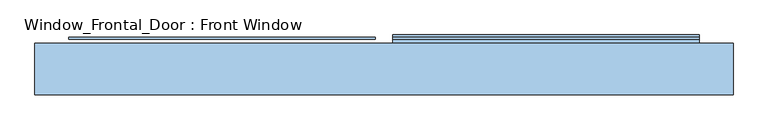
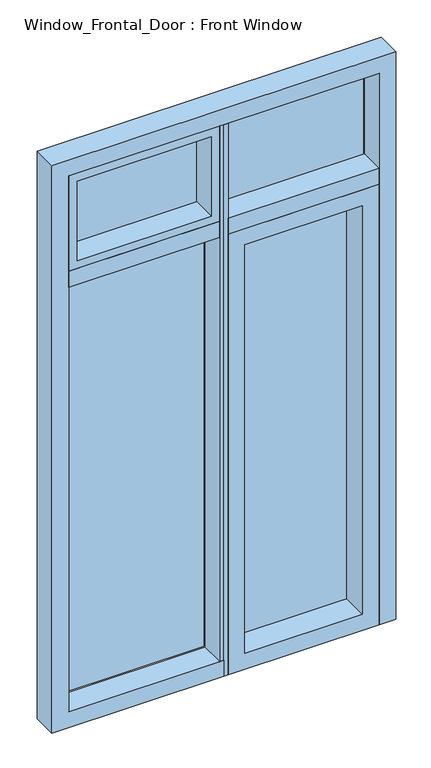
"""IFC4 building model written with IfcOpenShell, lengths in millimetres: window geometry, Window_Frontal_Door : Front Window."""

import ifcopenshell
import ifcopenshell.guid

model = None  # the IFC model being written
_history = None  # IfcOwnerHistory: only IFC2X3 demands one
_inside = {}  # id of a spatial element -> (the spatial element, [elements in it])
_under = {}  # id of a project, library or spatial element -> (it, [spatial elements below it])
_declared = {}  # id of a project -> (the project, [libraries it declares])
_typed = {}  # id of a type object -> (the type object, [elements of that type])
_made_of = {}  # id of a material, layer set ... -> (it, [elements and type objects made of it])


def new_model(schema):
    """Start an empty IFC model of exactly this schema.

    Asked for "IFC4X3", IfcOpenShell would pick the latest addendum, in which some entities
    have other attributes; the version numbers below select the first issue.
    IFC2X3 requires an IfcOwnerHistory on every rooted entity: one is made here for all.
    """
    global model, _history
    if schema == "IFC4X3":
        model = ifcopenshell.file(schema_version=(4, 3, 0, 0))
    else:
        model = ifcopenshell.file(schema=schema)
    _inside.clear()
    _under.clear()
    _declared.clear()
    _typed.clear()
    _made_of.clear()
    _history = None
    if model.schema == "IFC2X3":
        org = make("IfcOrganization", Name="unknown")
        user = make(
            "IfcPersonAndOrganization",
            ThePerson=make("IfcPerson", FamilyName="unknown"),
            TheOrganization=org,
        )
        app = make(
            "IfcApplication",
            ApplicationDeveloper=org,
            Version="unknown",
            ApplicationFullName="unknown",
            ApplicationIdentifier="unknown",
        )
        _history = make(
            "IfcOwnerHistory",
            OwningUser=user,
            OwningApplication=app,
            ChangeAction="ADDED",
            CreationDate=0,
        )
    return model


def make(cls, **values):
    """One entity of the class cls with the attributes given. An attribute that is None is left unset."""
    return model.create_entity(
        cls, **{name: value for name, value in values.items() if value is not None}
    )


def rooted(cls, **values):
    """An entity with a GlobalId (a new one), such as an element, a storey or a relation."""
    return make(cls, GlobalId=ifcopenshell.guid.new(), OwnerHistory=_history, **values)


def si_unit(unit_type, name, prefix=None):
    """IfcSIUnit, for example si_unit("LENGTHUNIT", "METRE", prefix="MILLI")."""
    return make("IfcSIUnit", UnitType=unit_type, Prefix=prefix, Name=name)


def assignment(units):
    """IfcUnitAssignment: the units of a project."""
    return None if units is None else make("IfcUnitAssignment", Units=units)


def point(xyz):
    """IfcCartesianPoint."""
    return None if xyz is None else make("IfcCartesianPoint", Coordinates=xyz)


def direction(xyz):
    """IfcDirection."""
    return None if xyz is None else make("IfcDirection", DirectionRatios=xyz)


def frame(location, z_axis=None, x_axis=None):
    """IfcAxis2Placement3D, a coordinate frame: its origin and axes. An axis left out is left unset."""
    return make(
        "IfcAxis2Placement3D",
        Location=point(location),
        Axis=direction(z_axis),
        RefDirection=direction(x_axis),
    )


def origin():
    """The frame at (0, 0, 0) with its axes left unset."""
    return frame((0.0, 0.0, 0.0))


def place(relative_to, where):
    """IfcLocalPlacement: puts the frame where relative to a parent placement (None: the world)."""
    return make(
        "IfcLocalPlacement", PlacementRelTo=relative_to, RelativePlacement=where
    )


def context(
    kind, dimensions, precision=None, world=None, true_north=None, identifier=None
):
    """IfcGeometricRepresentationContext, for example the 3D "Model" context."""
    return make(
        "IfcGeometricRepresentationContext",
        ContextIdentifier=identifier,
        ContextType=kind,
        CoordinateSpaceDimension=dimensions,
        Precision=precision,
        WorldCoordinateSystem=world,
        TrueNorth=true_north,
    )


def project(units=None, contexts=None):
    """IfcProject with its units and contexts."""
    return rooted(
        "IfcProject",
        Name="project",
        RepresentationContexts=contexts,
        UnitsInContext=assignment(units),
    )


def spatial(cls, under=None, at=None, **own):
    """A site, building, storey or space (cls), placed at a placement, below another one or the project."""
    s = rooted(cls, ObjectPlacement=at, **own)
    if under is not None:
        _under.setdefault(under.id(), (under, []))[1].append(s)
    return s


def polyline(points):
    """IfcPolyline through the points."""
    return make("IfcPolyline", Points=[point(p) for p in points])


def outline(outer, holes=None, kind="AREA"):
    """IfcArbitraryClosedProfileDef: a profile drawn as a closed curve; with holes, ...WithVoids."""
    if holes is None:
        return make("IfcArbitraryClosedProfileDef", ProfileType=kind, OuterCurve=outer)
    return make(
        "IfcArbitraryProfileDefWithVoids",
        ProfileType=kind,
        OuterCurve=outer,
        InnerCurves=holes,
    )


def extrude(swept, where, along, depth):
    """IfcExtrudedAreaSolid: the profile swept, set in the frame where, extruded along a direction by depth."""
    return make(
        "IfcExtrudedAreaSolid",
        SweptArea=swept,
        Position=where,
        ExtrudedDirection=direction(along),
        Depth=depth,
    )


def shape(context_of_items, identifier, shape_type, items):
    """IfcShapeRepresentation: the items that make up one representation, for example the "Body"."""
    return make(
        "IfcShapeRepresentation",
        ContextOfItems=context_of_items,
        RepresentationIdentifier=identifier,
        RepresentationType=shape_type,
        Items=items,
    )


def source(mapping_origin, context_of_items, identifier, shape_type, items):
    """IfcRepresentationMap: a shape defined once, which mapped items show again and again."""
    return make(
        "IfcRepresentationMap",
        MappingOrigin=mapping_origin,
        MappedRepresentation=shape(context_of_items, identifier, shape_type, items),
    )


def transform(
    local_origin,
    x_axis=None,
    y_axis=None,
    z_axis=None,
    scale=None,
    scale2=None,
    scale3=None,
    uniform=True,
):
    """IfcCartesianTransformationOperator3D, or its non-uniform kind. x_axis, y_axis, z_axis: its Axis1, 2, 3."""
    if uniform:
        return make(
            "IfcCartesianTransformationOperator3D",
            Axis1=direction(x_axis),
            Axis2=direction(y_axis),
            LocalOrigin=point(local_origin),
            Scale=scale,
            Axis3=direction(z_axis),
        )
    return make(
        "IfcCartesianTransformationOperator3DnonUniform",
        Axis1=direction(x_axis),
        Axis2=direction(y_axis),
        LocalOrigin=point(local_origin),
        Scale=scale,
        Axis3=direction(z_axis),
        Scale2=scale2,
        Scale3=scale3,
    )


def mapped(mapping_source, mapping_target):
    """IfcMappedItem: shows the shape of a source again, moved by a transform."""
    return make(
        "IfcMappedItem", MappingSource=mapping_source, MappingTarget=mapping_target
    )


def made_of(thing, what):
    """Note that an element or type object is made of a material, layer set ...; save() writes the relation."""
    if what is not None:
        _made_of.setdefault(what.id(), (what, []))[1].append(thing)
    return thing


def element(
    cls,
    number,
    at=None,
    inside=None,
    cuts=None,
    type_object=None,
    material=None,
    context=None,
    identifier="Body",
    shape_type=None,
    held_by="IfcProductDefinitionShape",
    body=None,
    shapes=None,
    **own,
):
    """One element of the class cls, such as IfcWall. Its Tag is "e" and its number.

    at: its placement. inside: the storey or other place that contains it. cuts: it is an
    opening in that element (IfcRelVoidsElement). A single representation is given by context,
    identifier, shape_type and body (its items); several are given by shapes. held_by: the class
    of the entity that holds the representations. save() writes the other relations.
    """
    e = rooted(cls, Tag="e%d" % number, ObjectPlacement=at, **own)
    if body is not None:
        shapes = [shape(context, identifier, shape_type, body)]
    if shapes is not None:
        e.Representation = make(held_by, Representations=shapes)
    if inside is not None:
        _inside.setdefault(inside.id(), (inside, []))[1].append(e)
    if cuts is not None:
        rooted(
            "IfcRelVoidsElement", RelatingBuildingElement=cuts, RelatedOpeningElement=e
        )
    if type_object is not None:
        _typed.setdefault(type_object.id(), (type_object, []))[1].append(e)
    return made_of(e, material)


def aggregate(whole, parts):
    """IfcRelAggregates: a whole, such as a stair, and the parts it consists of."""
    return rooted("IfcRelAggregates", RelatingObject=whole, RelatedObjects=parts)


def save(model, path):
    """Write the relations noted so far, then the file.

    IfcRelAggregates (storeys below a building ...), IfcRelContainedInSpatialStructure (elements
    in a storey), IfcRelDefinesByType, IfcRelAssociatesMaterial and IfcRelDeclares: one each for
    every whole, place, type object, material and project.
    """
    for whole, parts in _under.values():
        aggregate(whole, parts)
    for where, things in _inside.values():
        rooted(
            "IfcRelContainedInSpatialStructure",
            RelatedElements=things,
            RelatingStructure=where,
        )
    for kind, things in _typed.values():
        rooted("IfcRelDefinesByType", RelatedObjects=things, RelatingType=kind)
    for what, things in _made_of.values():
        rooted("IfcRelAssociatesMaterial", RelatedObjects=things, RelatingMaterial=what)
    for by, libraries in _declared.values():
        rooted("IfcRelDeclares", RelatingContext=by, RelatedDefinitions=libraries)
    model.write(path)


def window_frontal_door_front_window_7080e63b(model_context):
    return source(origin(), model_context, "Body", "SweptSolid", [
        extrude(outline(polyline([(914.4, 0.0), (1016.0, 0.0), (1016.0, -939.8), (4445.0, -939.8), (4445.0, 939.8), (914.4, 939.8), (914.4, 1041.4), (4546.6, 1041.4), (4546.6, -1041.4), (914.4, -1041.4), (914.4, 0.0)])), frame((0.0, -76.2, 0.0), z_axis=(0.0, 1.0, 0.0), x_axis=(0.0, 0.0, 1.0)), (0.0, 0.0, 1.0), 152.4),
        extrude(outline(polyline([(-25.4, 95.25), (-25.4, 88.9), (-939.8, 88.9), (-939.8, 95.25), (-25.4, 95.25)])), frame((0.0, 0.0, 1016.0), z_axis=(0.0, 0.0, 1.0), x_axis=(1.0, 0.0, 0.0)), (0.0, 0.0, 1.0), 3429.0),
        extrude(outline(polyline([(939.8, 95.25), (939.8, 88.9), (25.4, 88.9), (25.4, 95.25), (939.8, 95.25)])), frame((0.0, 0.0, 1016.0), z_axis=(0.0, 0.0, 1.0), x_axis=(1.0, 0.0, 0.0)), (0.0, 0.0, 1.0), 3429.0),
        extrude(outline(polyline([(25.4, -76.2), (0.0, -76.2), (0.0, 76.2), (25.4, 76.2), (25.4, -76.2)])), frame((0.0, 0.0, 914.4), z_axis=(0.0, 0.0, 1.0), x_axis=(1.0, 0.0, 0.0)), (0.0, 0.0, 1.0), 3530.6),
        extrude(outline(polyline([(0.0, -76.2), (-25.4, -76.2), (-25.4, 76.2), (0.0, 76.2), (0.0, -76.2)])), frame((0.0, 0.0, 1016.0), z_axis=(0.0, 0.0, 1.0), x_axis=(1.0, 0.0, 0.0)), (0.0, 0.0, 1.0), 3429.0),
        extrude(outline(polyline([(3733.8, 25.4), (914.4, 25.4), (914.4, 939.8), (3733.8, 939.8), (3733.8, 25.4)]), holes=[polyline([(3632.2, 127.0), (3632.2, 838.2), (1016.0, 838.2), (1016.0, 127.0), (3632.2, 127.0)])]), frame((0.0, -76.2, 0.0), z_axis=(0.0, 1.0, 0.0), x_axis=(0.0, 0.0, 1.0)), (0.0, 0.0, 1.0), 177.8),
        extrude(outline(polyline([(-25.4, -76.2), (-939.8, -76.2), (-939.8, 76.2), (-25.4, 76.2), (-25.4, -76.2)])), frame((0.0, 0.0, 3733.8), z_axis=(0.0, 0.0, 1.0), x_axis=(1.0, 0.0, 0.0)), (0.0, 0.0, 1.0), 101.6),
        extrude(outline(polyline([(939.8, -76.2), (25.4, -76.2), (25.4, 76.2), (939.8, 76.2), (939.8, -76.2)])), frame((0.0, 0.0, 3733.8), z_axis=(0.0, 0.0, 1.0), x_axis=(1.0, 0.0, 0.0)), (0.0, 0.0, 1.0), 101.6),
        extrude(outline(polyline([(4445.0, -939.8), (3835.4, -939.8), (3835.4, -25.4), (4445.0, -25.4), (4445.0, -939.8)]), holes=[polyline([(4394.2, -889.0), (4394.2, -76.2), (3886.2, -76.2), (3886.2, -889.0), (4394.2, -889.0)])]), frame((0.0, -76.2, 0.0), z_axis=(0.0, 1.0, 0.0), x_axis=(0.0, 0.0, 1.0)), (0.0, 0.0, 1.0), 152.4),
    ])


if __name__ == "__main__":
    model = new_model("IFC4")
    model_context = context("Model", 3, world=origin())
    ifc_project = project(units=[si_unit("LENGTHUNIT", "METRE", prefix="MILLI")], contexts=[model_context])
    site = spatial("IfcSite", under=ifc_project)
    building = spatial("IfcBuilding", under=site)
    placement = place(None, origin())
    window_frontal_door_front_window_shape = window_frontal_door_front_window_7080e63b(model_context)
    element("IfcWindow", 1, ObjectType="Window_Frontal_Door : Front Window", at=placement, inside=building, context=model_context, shape_type="MappedRepresentation", body=[
        mapped(window_frontal_door_front_window_shape, transform((0.0, 0.0, 0.0), x_axis=(1.0, 0.0, 0.0), y_axis=(0.0, 1.0, 0.0), z_axis=(0.0, 0.0, 1.0))),
    ])
    save(model, "model.ifc")
